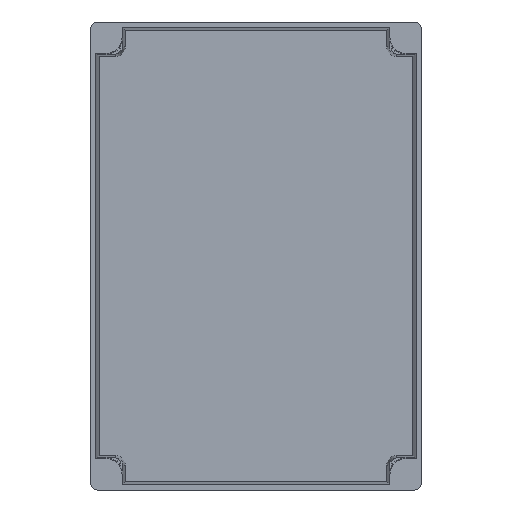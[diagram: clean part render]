
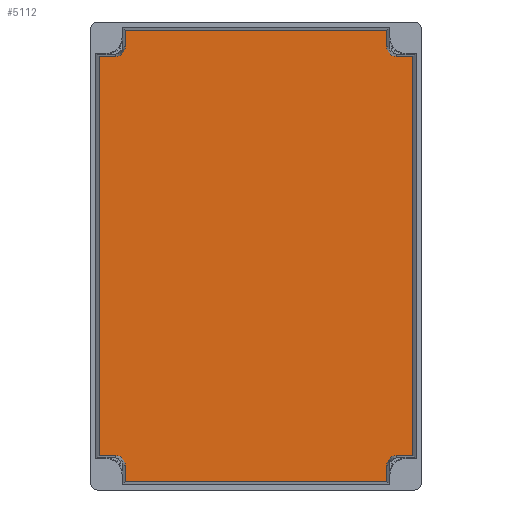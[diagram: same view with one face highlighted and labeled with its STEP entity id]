
A CAD part, front view. The second image highlights one B-rep face of the part: STEP entity #5112.
In plain terms, the highlighted planar face has unit normal (0, -1, 0).
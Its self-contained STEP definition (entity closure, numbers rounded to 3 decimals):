
#2624 = DIRECTION ( 'NONE',  ( 0., 0., 1. ) ) ;
#2625 = VECTOR ( 'NONE', #2624, 1000. ) ;
#2626 = CARTESIAN_POINT ( 'NONE',  ( 71.224, 49., -114.134 ) ) ;
#2627 = LINE ( 'NONE', #2626, #2625 ) ;
#2628 = CARTESIAN_POINT ( 'NONE',  ( 71.224, 49., 114.134 ) ) ;
#2629 = CARTESIAN_POINT ( 'NONE',  ( 76.634, 49., 108.724 ) ) ;
#2630 = DIRECTION ( 'NONE',  ( 0., 0., 1. ) ) ;
#2631 = DIRECTION ( 'NONE',  ( 0., 1., 0. ) ) ;
#2632 = CARTESIAN_POINT ( 'NONE',  ( 76.634, 49., 114.134 ) ) ;
#2633 = AXIS2_PLACEMENT_3D ( 'NONE', #2632, #2631, #2630 ) ;
#2634 = CIRCLE ( 'NONE', #2633, 5.41 ) ;
#2635 = DIRECTION ( 'NONE',  ( 0., 0., 1. ) ) ;
#2636 = DIRECTION ( 'NONE',  ( 0., 1., 0. ) ) ;
#2637 = CARTESIAN_POINT ( 'NONE',  ( -81.75, 49., -119.25 ) ) ;
#2638 = AXIS2_PLACEMENT_3D ( 'NONE', #2637, #2636, #2635 ) ;
#2648 = LINE ( 'NONE', #2710, #2709 ) ;
#2649 = CARTESIAN_POINT ( 'NONE',  ( -76.634, 49., 108.724 ) ) ;
#2650 = DIRECTION ( 'NONE',  ( 0., 0., 1. ) ) ;
#2651 = DIRECTION ( 'NONE',  ( 0., 1., 0. ) ) ;
#2652 = CARTESIAN_POINT ( 'NONE',  ( -76.634, 49., 114.134 ) ) ;
#2653 = AXIS2_PLACEMENT_3D ( 'NONE', #2652, #2651, #2650 ) ;
#2654 = CIRCLE ( 'NONE', #2653, 5.41 ) ;
#2655 = CARTESIAN_POINT ( 'NONE',  ( -71.224, 49., 114.134 ) ) ;
#2656 = DIRECTION ( 'NONE',  ( 0., 0., -1. ) ) ;
#2657 = VECTOR ( 'NONE', #2656, 1000. ) ;
#2658 = CARTESIAN_POINT ( 'NONE',  ( -71.224, 49., 114.134 ) ) ;
#2659 = LINE ( 'NONE', #2658, #2657 ) ;
#2660 = CARTESIAN_POINT ( 'NONE',  ( -71.224, 49., 122.974 ) ) ;
#2661 = DIRECTION ( 'NONE',  ( -1., 0., 0. ) ) ;
#2662 = VECTOR ( 'NONE', #2661, 1000. ) ;
#2663 = CARTESIAN_POINT ( 'NONE',  ( 72.529, 49., 122.974 ) ) ;
#2664 = LINE ( 'NONE', #2663, #2662 ) ;
#2665 = CARTESIAN_POINT ( 'NONE',  ( 71.224, 49., 122.974 ) ) ;
#2666 = DIRECTION ( 'NONE',  ( 0., 0., 1. ) ) ;
#2667 = VECTOR ( 'NONE', #2666, 1000. ) ;
#2668 = CARTESIAN_POINT ( 'NONE',  ( 71.224, 49., 114.134 ) ) ;
#2674 = LINE ( 'NONE', #2668, #2667 ) ;
#2679 = FACE_OUTER_BOUND ( 'NONE', #5113, .T. ) ;
#2684 = PLANE ( 'NONE',  #2638 ) ;
#2707 = CARTESIAN_POINT ( 'NONE',  ( -85.474, 49., 108.724 ) ) ;
#2708 = DIRECTION ( 'NONE',  ( -1., 0., 0. ) ) ;
#2709 = VECTOR ( 'NONE', #2708, 1000. ) ;
#2710 = CARTESIAN_POINT ( 'NONE',  ( -86.779, 49., 108.724 ) ) ;
#2722 = CARTESIAN_POINT ( 'NONE',  ( 71.224, 49., -122.974 ) ) ;
#2723 = DIRECTION ( 'NONE',  ( 1., 0., 0. ) ) ;
#2724 = VECTOR ( 'NONE', #2723, 1000. ) ;
#2725 = CARTESIAN_POINT ( 'NONE',  ( -72.529, 49., -122.974 ) ) ;
#2726 = LINE ( 'NONE', #2725, #2724 ) ;
#2729 = CARTESIAN_POINT ( 'NONE',  ( -71.224, 49., -122.974 ) ) ;
#2730 = DIRECTION ( 'NONE',  ( 0., 0., -1. ) ) ;
#2731 = VECTOR ( 'NONE', #2730, 1000. ) ;
#2732 = CARTESIAN_POINT ( 'NONE',  ( -71.224, 49., -114.134 ) ) ;
#2733 = LINE ( 'NONE', #2732, #2731 ) ;
#2734 = CARTESIAN_POINT ( 'NONE',  ( -71.224, 49., -114.134 ) ) ;
#2735 = DIRECTION ( 'NONE',  ( 0., 0., 1. ) ) ;
#2736 = DIRECTION ( 'NONE',  ( 0., 1., 0. ) ) ;
#2737 = CARTESIAN_POINT ( 'NONE',  ( -76.634, 49., -114.134 ) ) ;
#2738 = AXIS2_PLACEMENT_3D ( 'NONE', #2737, #2736, #2735 ) ;
#2739 = CIRCLE ( 'NONE', #2738, 5.41 ) ;
#2740 = CARTESIAN_POINT ( 'NONE',  ( -76.634, 49., -108.724 ) ) ;
#2741 = DIRECTION ( 'NONE',  ( 1., 0., 0. ) ) ;
#2742 = VECTOR ( 'NONE', #2741, 1000. ) ;
#2743 = CARTESIAN_POINT ( 'NONE',  ( -86.779, 49., -108.724 ) ) ;
#2744 = LINE ( 'NONE', #2743, #2742 ) ;
#2746 = CARTESIAN_POINT ( 'NONE',  ( -85.474, 49., -108.724 ) ) ;
#2747 = DIRECTION ( 'NONE',  ( 0., 0., -1. ) ) ;
#2748 = VECTOR ( 'NONE', #2747, 1000. ) ;
#2749 = CARTESIAN_POINT ( 'NONE',  ( -85.474, 49., 110.029 ) ) ;
#2750 = LINE ( 'NONE', #2749, #2748 ) ;
#2855 = DIRECTION ( 'NONE',  ( -1., 0., 0. ) ) ;
#2856 = VECTOR ( 'NONE', #2855, 1000. ) ;
#2857 = CARTESIAN_POINT ( 'NONE',  ( 86.779, 49., 108.724 ) ) ;
#2858 = LINE ( 'NONE', #2857, #2856 ) ;
#2859 = CARTESIAN_POINT ( 'NONE',  ( 85.474, 49., 108.724 ) ) ;
#2860 = DIRECTION ( 'NONE',  ( 0., 0., 1. ) ) ;
#2861 = VECTOR ( 'NONE', #2860, 1000. ) ;
#2862 = CARTESIAN_POINT ( 'NONE',  ( 85.474, 49., -110.029 ) ) ;
#2863 = LINE ( 'NONE', #2862, #2861 ) ;
#2864 = CARTESIAN_POINT ( 'NONE',  ( 85.474, 49., -108.724 ) ) ;
#2865 = DIRECTION ( 'NONE',  ( 1., 0., 0. ) ) ;
#2866 = VECTOR ( 'NONE', #2865, 1000. ) ;
#2867 = CARTESIAN_POINT ( 'NONE',  ( 86.779, 49., -108.724 ) ) ;
#2868 = LINE ( 'NONE', #2867, #2866 ) ;
#2869 = CARTESIAN_POINT ( 'NONE',  ( 76.634, 49., -108.724 ) ) ;
#2870 = DIRECTION ( 'NONE',  ( 0., 0., 1. ) ) ;
#2871 = DIRECTION ( 'NONE',  ( 0., 1., 0. ) ) ;
#2872 = CARTESIAN_POINT ( 'NONE',  ( 76.634, 49., -114.134 ) ) ;
#2873 = AXIS2_PLACEMENT_3D ( 'NONE', #2872, #2871, #2870 ) ;
#2874 = CIRCLE ( 'NONE', #2873, 5.41 ) ;
#2875 = CARTESIAN_POINT ( 'NONE',  ( 71.224, 49., -114.134 ) ) ;
#5050 = ORIENTED_EDGE ( 'NONE', *, *, #5051, .T. ) ;
#5051 = EDGE_CURVE ( 'NONE', #5092, #5052, #2750, .T. ) ;
#5052 = VERTEX_POINT ( 'NONE', #2746 ) ;
#5054 = ORIENTED_EDGE ( 'NONE', *, *, #5055, .T. ) ;
#5055 = EDGE_CURVE ( 'NONE', #5052, #5056, #2744, .T. ) ;
#5056 = VERTEX_POINT ( 'NONE', #2740 ) ;
#5057 = ORIENTED_EDGE ( 'NONE', *, *, #5058, .T. ) ;
#5058 = EDGE_CURVE ( 'NONE', #5056, #5059, #2739, .T. ) ;
#5059 = VERTEX_POINT ( 'NONE', #2734 ) ;
#5060 = ORIENTED_EDGE ( 'NONE', *, *, #5061, .T. ) ;
#5061 = EDGE_CURVE ( 'NONE', #5059, #5062, #2733, .T. ) ;
#5062 = VERTEX_POINT ( 'NONE', #2729 ) ;
#5063 = ORIENTED_EDGE ( 'NONE', *, *, #5064, .T. ) ;
#5064 = EDGE_CURVE ( 'NONE', #5062, #5065, #2726, .T. ) ;
#5065 = VERTEX_POINT ( 'NONE', #2722 ) ;
#5078 = ORIENTED_EDGE ( 'NONE', *, *, #5079, .T. ) ;
#5079 = EDGE_CURVE ( 'NONE', #5117, #5080, #2674, .T. ) ;
#5080 = VERTEX_POINT ( 'NONE', #2665 ) ;
#5081 = ORIENTED_EDGE ( 'NONE', *, *, #5082, .T. ) ;
#5082 = EDGE_CURVE ( 'NONE', #5080, #5083, #2664, .T. ) ;
#5083 = VERTEX_POINT ( 'NONE', #2660 ) ;
#5084 = ORIENTED_EDGE ( 'NONE', *, *, #5085, .T. ) ;
#5085 = EDGE_CURVE ( 'NONE', #5083, #5086, #2659, .T. ) ;
#5086 = VERTEX_POINT ( 'NONE', #2655 ) ;
#5087 = ORIENTED_EDGE ( 'NONE', *, *, #5088, .T. ) ;
#5088 = EDGE_CURVE ( 'NONE', #5086, #5089, #2654, .T. ) ;
#5089 = VERTEX_POINT ( 'NONE', #2649 ) ;
#5090 = ORIENTED_EDGE ( 'NONE', *, *, #5091, .T. ) ;
#5091 = EDGE_CURVE ( 'NONE', #5089, #5092, #2648, .T. ) ;
#5092 = VERTEX_POINT ( 'NONE', #2707 ) ;
#5112 = ADVANCED_FACE ( 'NONE', ( #2679 ), #2684, .F. ) ;
#5113 = EDGE_LOOP ( 'NONE', ( #5114, #5078, #5081, #5084, #5087, #5090, #5050, #5054, #5057, #5060, #5063, #5118, #5121, #5124, #5127, #5130 ) ) ;
#5114 = ORIENTED_EDGE ( 'NONE', *, *, #5115, .T. ) ;
#5115 = EDGE_CURVE ( 'NONE', #5116, #5117, #2634, .T. ) ;
#5116 = VERTEX_POINT ( 'NONE', #2629 ) ;
#5117 = VERTEX_POINT ( 'NONE', #2628 ) ;
#5118 = ORIENTED_EDGE ( 'NONE', *, *, #5119, .T. ) ;
#5119 = EDGE_CURVE ( 'NONE', #5065, #5120, #2627, .T. ) ;
#5120 = VERTEX_POINT ( 'NONE', #2875 ) ;
#5121 = ORIENTED_EDGE ( 'NONE', *, *, #5122, .T. ) ;
#5122 = EDGE_CURVE ( 'NONE', #5120, #5123, #2874, .T. ) ;
#5123 = VERTEX_POINT ( 'NONE', #2869 ) ;
#5124 = ORIENTED_EDGE ( 'NONE', *, *, #5125, .T. ) ;
#5125 = EDGE_CURVE ( 'NONE', #5123, #5126, #2868, .T. ) ;
#5126 = VERTEX_POINT ( 'NONE', #2864 ) ;
#5127 = ORIENTED_EDGE ( 'NONE', *, *, #5128, .T. ) ;
#5128 = EDGE_CURVE ( 'NONE', #5126, #5129, #2863, .T. ) ;
#5129 = VERTEX_POINT ( 'NONE', #2859 ) ;
#5130 = ORIENTED_EDGE ( 'NONE', *, *, #5131, .T. ) ;
#5131 = EDGE_CURVE ( 'NONE', #5129, #5116, #2858, .T. ) ;
